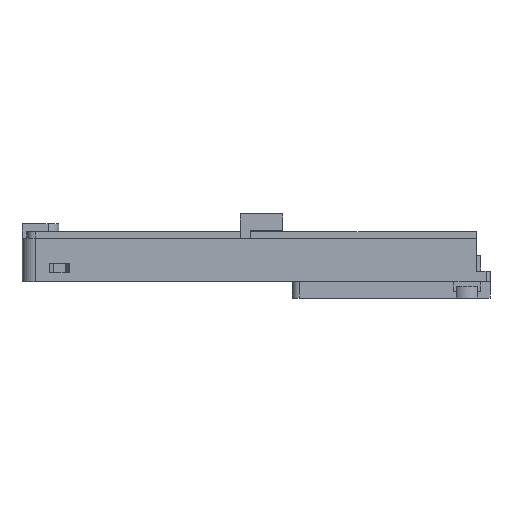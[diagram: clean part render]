
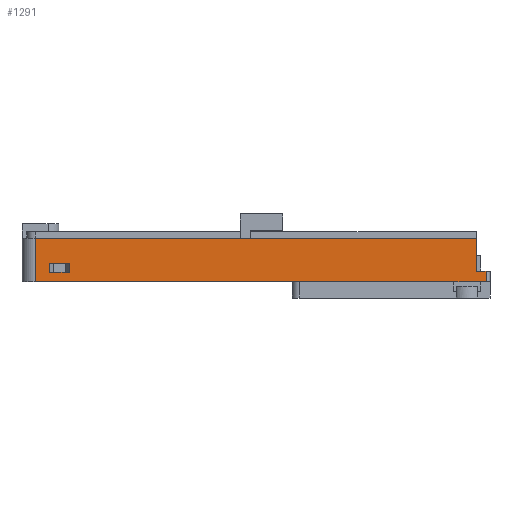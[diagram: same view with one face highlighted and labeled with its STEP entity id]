
A CAD part, left-side view. The second image highlights one B-rep face of the part: STEP entity #1291.
In plain terms, the highlighted planar face has unit normal (-1, 0, 0).
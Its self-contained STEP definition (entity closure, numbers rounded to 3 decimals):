
#190 = VERTEX_POINT('',#191);
#191 = CARTESIAN_POINT('',(-3.,-132.8,-6.4));
#198 = EDGE_CURVE('',#199,#190,#201,.T.);
#199 = VERTEX_POINT('',#200);
#200 = CARTESIAN_POINT('',(-3.,-132.8,-9.6));
#201 = LINE('',#202,#203);
#202 = CARTESIAN_POINT('',(-3.,-132.8,-9.6));
#203 = VECTOR('',#204,1.);
#204 = DIRECTION('',(0.,0.,1.));
#223 = VERTEX_POINT('',#224);
#224 = CARTESIAN_POINT('',(-3.,-129.8,-6.4));
#232 = EDGE_CURVE('',#190,#223,#233,.T.);
#233 = LINE('',#234,#235);
#234 = CARTESIAN_POINT('',(-3.,-102.1,-6.4));
#235 = VECTOR('',#236,1.);
#236 = DIRECTION('',(0.,1.,0.));
#689 = EDGE_CURVE('',#199,#690,#692,.T.);
#690 = VERTEX_POINT('',#691);
#691 = CARTESIAN_POINT('',(-3.,4.4,-9.6));
#692 = LINE('',#693,#694);
#693 = CARTESIAN_POINT('',(-3.,-130.,-9.6));
#694 = VECTOR('',#695,1.);
#695 = DIRECTION('',(0.,1.,0.));
#1291 = ADVANCED_FACE('',(#1292,#1319),#1353,.T.);
#1292 = FACE_BOUND('',#1293,.T.);
#1293 = EDGE_LOOP('',(#1294,#1302,#1310,#1316,#1317,#1318));
#1294 = ORIENTED_EDGE('',*,*,#1295,.F.);
#1295 = EDGE_CURVE('',#1296,#223,#1298,.T.);
#1296 = VERTEX_POINT('',#1297);
#1297 = CARTESIAN_POINT('',(-3.,-129.8,3.6));
#1298 = LINE('',#1299,#1300);
#1299 = CARTESIAN_POINT('',(-3.,-129.8,-4.7));
#1300 = VECTOR('',#1301,1.);
#1301 = DIRECTION('',(0.,0.,-1.));
#1302 = ORIENTED_EDGE('',*,*,#1303,.T.);
#1303 = EDGE_CURVE('',#1296,#1304,#1306,.T.);
#1304 = VERTEX_POINT('',#1305);
#1305 = CARTESIAN_POINT('',(-3.,4.4,3.6));
#1306 = LINE('',#1307,#1308);
#1307 = CARTESIAN_POINT('',(-3.,-130.,3.6));
#1308 = VECTOR('',#1309,1.);
#1309 = DIRECTION('',(0.,1.,0.));
#1310 = ORIENTED_EDGE('',*,*,#1311,.F.);
#1311 = EDGE_CURVE('',#690,#1304,#1312,.T.);
#1312 = LINE('',#1313,#1314);
#1313 = CARTESIAN_POINT('',(-3.,4.4,-9.6));
#1314 = VECTOR('',#1315,1.);
#1315 = DIRECTION('',(0.,0.,1.));
#1316 = ORIENTED_EDGE('',*,*,#689,.F.);
#1317 = ORIENTED_EDGE('',*,*,#198,.T.);
#1318 = ORIENTED_EDGE('',*,*,#232,.T.);
#1319 = FACE_BOUND('',#1320,.T.);
#1320 = EDGE_LOOP('',(#1321,#1331,#1339,#1347));
#1321 = ORIENTED_EDGE('',*,*,#1322,.F.);
#1322 = EDGE_CURVE('',#1323,#1325,#1327,.T.);
#1323 = VERTEX_POINT('',#1324);
#1324 = CARTESIAN_POINT('',(-3.,-0.05,-4.));
#1325 = VERTEX_POINT('',#1326);
#1326 = CARTESIAN_POINT('',(-3.,-0.05,-6.8));
#1327 = LINE('',#1328,#1329);
#1328 = CARTESIAN_POINT('',(-3.,-0.05,-4.9));
#1329 = VECTOR('',#1330,1.);
#1330 = DIRECTION('',(0.,0.,-1.));
#1331 = ORIENTED_EDGE('',*,*,#1332,.F.);
#1332 = EDGE_CURVE('',#1333,#1323,#1335,.T.);
#1333 = VERTEX_POINT('',#1334);
#1334 = CARTESIAN_POINT('',(-3.,-5.95,-4.));
#1335 = LINE('',#1336,#1337);
#1336 = CARTESIAN_POINT('',(-3.,-33.6,-4.));
#1337 = VECTOR('',#1338,1.);
#1338 = DIRECTION('',(0.,1.,0.));
#1339 = ORIENTED_EDGE('',*,*,#1340,.T.);
#1340 = EDGE_CURVE('',#1333,#1341,#1343,.T.);
#1341 = VERTEX_POINT('',#1342);
#1342 = CARTESIAN_POINT('',(-3.,-5.95,-6.8));
#1343 = LINE('',#1344,#1345);
#1344 = CARTESIAN_POINT('',(-3.,-5.95,-4.9));
#1345 = VECTOR('',#1346,1.);
#1346 = DIRECTION('',(0.,0.,-1.));
#1347 = ORIENTED_EDGE('',*,*,#1348,.F.);
#1348 = EDGE_CURVE('',#1325,#1341,#1349,.T.);
#1349 = LINE('',#1350,#1351);
#1350 = CARTESIAN_POINT('',(-3.,-33.6,-6.8));
#1351 = VECTOR('',#1352,1.);
#1352 = DIRECTION('',(0.,-1.,0.));
#1353 = PLANE('',#1354);
#1354 = AXIS2_PLACEMENT_3D('',#1355,#1356,#1357);
#1355 = CARTESIAN_POINT('',(-3.,-64.2,-3.));
#1356 = DIRECTION('',(-1.,-0.,-0.));
#1357 = DIRECTION('',(0.,0.,-1.));
